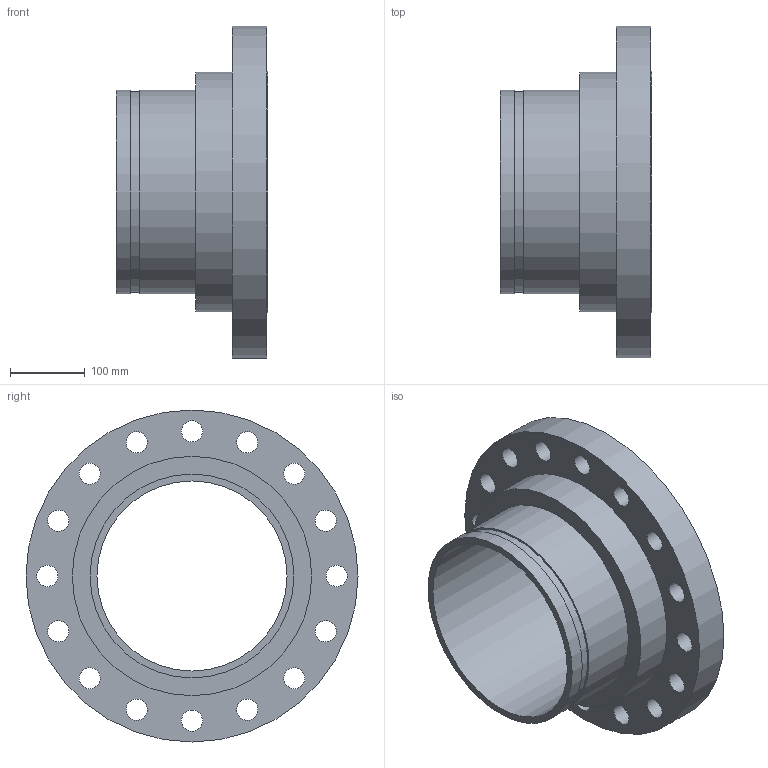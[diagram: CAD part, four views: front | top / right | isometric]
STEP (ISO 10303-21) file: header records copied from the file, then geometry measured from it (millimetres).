
FILE_DESCRIPTION(/* description */ ('VIC FLANGE ADAPTER No 46R','CAx-IF Rec.Pracs.---Representation and Presentation of Product Manufacturing Information (PMI)---4.0---2014-10-13'),/* implementation_level */ '2;1');
FILE_NAME(/* name */ 'C:\Users\kkamble\AppData\Roaming\Autodesk\ApplicationPlugins\Back Up\Victaulic_IPS_Flanged Adapter Nipple_CL 300 RF_No 46R (OGSxFLG)\Victaulic_IPS_Flanged Adapter Nipple_CL 300 RF_No 46R (OGSxFLG)_10 (250).stp',/* time_stamp */ '2020-07-26T22:26:03+06:00',/* author */ ('CONSTRUCTION PIPING SERVICES'),/* organization */ ('Victaulic'),/* preprocessor_version */ 'ST-DEVELOPER v17.2',/* originating_system */ 'Autodesk Inventor 2019',/* authorisation */ '');
FILE_SCHEMA (('AP242_MANAGED_MODEL_BASED_3D_ENGINEERING_MIM_LF { 1 0 10303 442 1 1 4 }'));
Length unit declared in the file: inch
Products named in the file (1): 046R-10.0
Bounding box: 203.2 x 444.5 x 444.5 mm (x, y, z)
Volume: 6653740.1 mm3; surface area: 627481.1 mm2
Topology: 1 solids, 1 shells, 30 faces, 83 edges, 60 vertices
Faces by surface type: cylinder 23, plane 7
Full cylindrical faces by diameter (mm): 28.448 x16, 254.508 x1, 268.275 x1, 273.05 x2, 320.548 x1, 323.85 x1, 444.5 x1
Entity records: 1169 total; most frequent: DIRECTION 205, CARTESIAN_POINT 174, ORIENTED_EDGE 166, AXIS2_PLACEMENT_3D 91, EDGE_CURVE 83, EDGE_LOOP 69, CIRCLE 60, VERTEX_POINT 60
